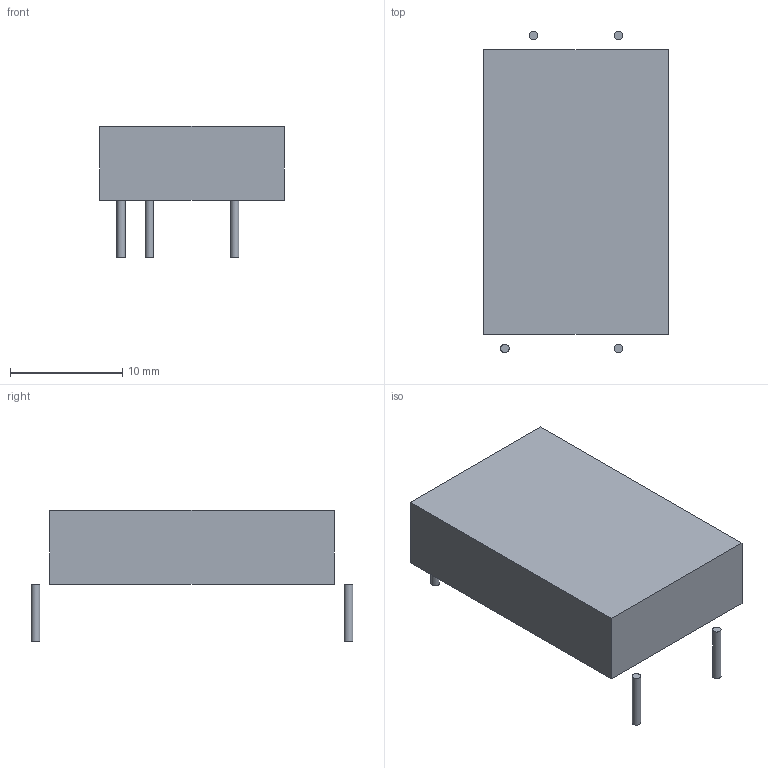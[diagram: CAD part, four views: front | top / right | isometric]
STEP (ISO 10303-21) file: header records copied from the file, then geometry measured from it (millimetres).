
FILE_DESCRIPTION(('FreeCAD Model'),'2;1');
FILE_NAME('/var/www/3D/0T/12150450.1.5.stp','2020-06-03T11:21:11',( 'Author'),(''),'Open CASCADE STEP processor 6.9','FreeCAD','Unknown' );
FILE_SCHEMA(('AUTOMOTIVE_DESIGN { 1 0 10303 214 1 1 1 1 }'));
Length unit declared in the file: millimetre
Products named in the file (3): ASSEMBLY; Body; Leads
Assembly tree (5 placements, depth 2):
  ASSEMBLY
    Body
    Leads  x4
Bounding box: 16.51 x 28.7 x 11.7 mm (x, y, z)
Volume: 2806.6 mm3; surface area: 1602.2 mm2
Topology: 17 solids, 17 shells, 54 faces, 60 edges, 40 vertices
Faces by surface type: plane 38, cylinder 16
Full cylindrical faces by diameter (mm): 0.762 x16
Entity records: 799 total; most frequent: DIRECTION 128, CARTESIAN_POINT 112, LINE 56, VECTOR 56, ORIENTED_EDGE 48, PCURVE 48, DEFINITIONAL_REPRESENTATION 48, AXIS2_PLACEMENT_3D 32
